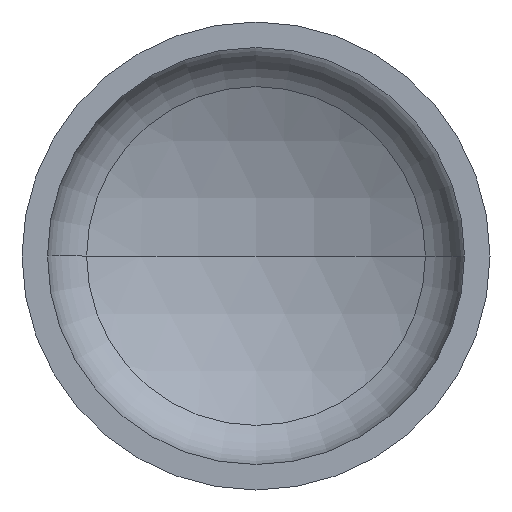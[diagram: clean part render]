
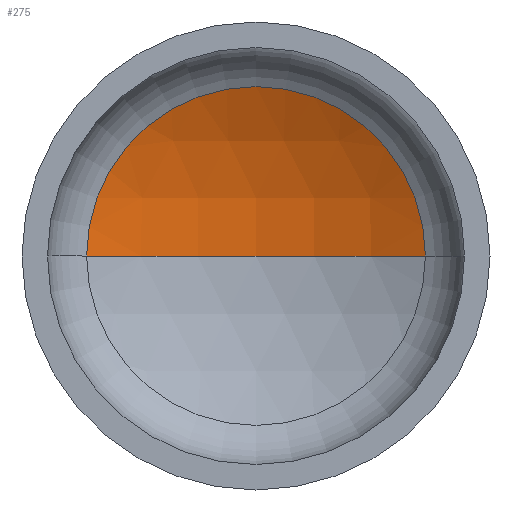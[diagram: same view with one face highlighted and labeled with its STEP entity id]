
A CAD part, front view. The second image highlights one B-rep face of the part: STEP entity #275.
In plain terms, the highlighted spherical face has radius 1440 mm.
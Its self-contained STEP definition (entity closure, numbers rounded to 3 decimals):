
#11 = EDGE_LOOP ( 'NONE', ( #50, #39, #111 ) ) ;
#17 = DIRECTION ( 'NONE',  ( 1., 0., 0. ) ) ;
#24 = DIRECTION ( 'NONE',  ( 0., -1., 0. ) ) ;
#39 = ORIENTED_EDGE ( 'NONE', *, *, #173, .T. ) ;
#41 = VERTEX_POINT ( 'NONE', #248 ) ;
#50 = ORIENTED_EDGE ( 'NONE', *, *, #180, .F. ) ;
#61 = AXIS2_PLACEMENT_3D ( 'NONE', #75, #398, #193 ) ;
#74 = VERTEX_POINT ( 'NONE', #362 ) ;
#75 = CARTESIAN_POINT ( 'NONE',  ( 0., -938.988, 0. ) ) ;
#101 = AXIS2_PLACEMENT_3D ( 'NONE', #234, #236, #279 ) ;
#103 = AXIS2_PLACEMENT_3D ( 'NONE', #293, #292, #288 ) ;
#105 = VERTEX_POINT ( 'NONE', #246 ) ;
#110 = AXIS2_PLACEMENT_3D ( 'NONE', #175, #24, #17 ) ;
#111 = ORIENTED_EDGE ( 'NONE', *, *, #157, .T. ) ;
#157 = EDGE_CURVE ( 'NONE', #74, #105, #250, .T. ) ;
#173 = EDGE_CURVE ( 'NONE', #41, #74, #179, .T. ) ;
#175 = CARTESIAN_POINT ( 'NONE',  ( 0., 345.255, 0. ) ) ;
#179 = CIRCLE ( 'NONE', #101, 1440. ) ;
#180 = EDGE_CURVE ( 'NONE', #41, #105, #311, .T. ) ;
#193 = DIRECTION ( 'NONE',  ( -1., 0., 0. ) ) ;
#234 = CARTESIAN_POINT ( 'NONE',  ( 0., -938.988, 0. ) ) ;
#236 = DIRECTION ( 'NONE',  ( 0., 0., -1. ) ) ;
#246 = CARTESIAN_POINT ( 'NONE',  ( -651.399, 345.255, 0. ) ) ;
#248 = CARTESIAN_POINT ( 'NONE',  ( 0., 501.012, 0. ) ) ;
#250 = CIRCLE ( 'NONE', #110, 651.399 ) ;
#275 = ADVANCED_FACE ( 'NONE', ( #291 ), #355, .F. ) ;
#279 = DIRECTION ( 'NONE',  ( -1., 0., 0. ) ) ;
#288 = DIRECTION ( 'NONE',  ( 1., 0., 0. ) ) ;
#291 = FACE_OUTER_BOUND ( 'NONE', #11, .T. ) ;
#292 = DIRECTION ( 'NONE',  ( 0., 0., 1. ) ) ;
#293 = CARTESIAN_POINT ( 'NONE',  ( 0., -938.988, 0. ) ) ;
#311 = CIRCLE ( 'NONE', #103, 1440. ) ;
#355 = SPHERICAL_SURFACE ( 'NONE', #61, 1440. ) ;
#362 = CARTESIAN_POINT ( 'NONE',  ( 651.399, 345.255, 0. ) ) ;
#398 = DIRECTION ( 'NONE',  ( 0., 0., -1. ) ) ;
